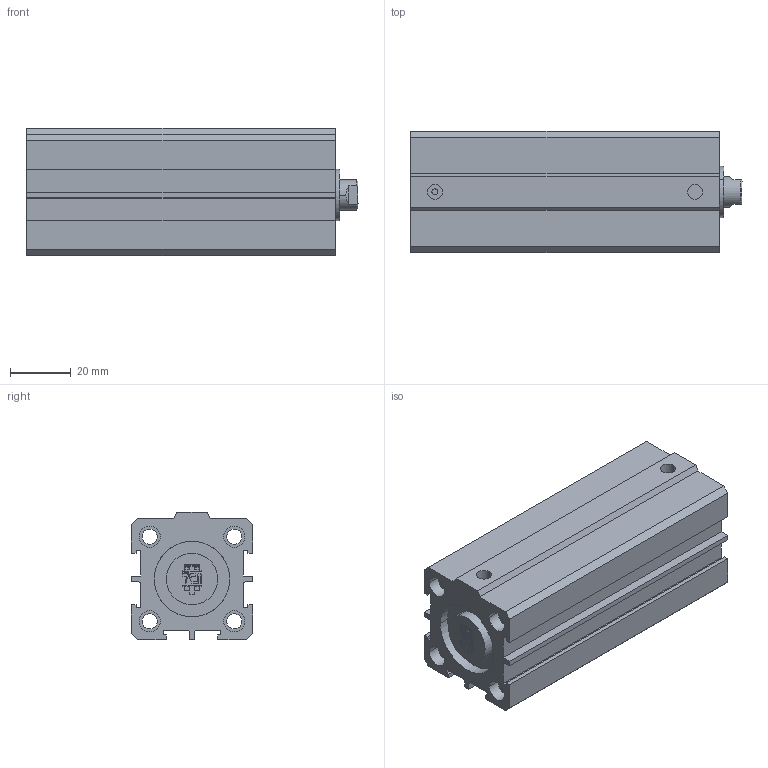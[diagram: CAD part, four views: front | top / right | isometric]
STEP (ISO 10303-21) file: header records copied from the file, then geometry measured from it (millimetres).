
FILE_DESCRIPTION(('CATIA V5 STEP Exchange'),'2;1');
FILE_NAME('D:\PDA\PDA-STP\PDA 25-10\PDA 25-10-70.stp','2016-02-02T10:38:18+00:00',('none'),('none'),'Version 5-6 Release 2012','CATIA V5 STEP AP203','none');
FILE_SCHEMA(('CONFIG_CONTROL_DESIGN'));
Length unit declared in the file: millimetre
Products named in the file (1): PDA 25-10-70-00
Assembly tree (2 placements, depth 2):
  PDA 25-10-70-00
    #58
    #6229
Bounding box: 109.75 x 40 x 42 mm (x, y, z)
Volume: 111723.5 mm3; surface area: 45372.2 mm2
Topology: 3 solids, 4 shells, 238 faces, 606 edges, 406 vertices
Faces by surface type: plane 166, cylinder 68, cone 4
Entity records: 6735 total; most frequent: ORIENTED_EDGE 1212, CARTESIAN_POINT 1202, DIRECTION 914, EDGE_CURVE 606, VECTOR 446, LINE 446, VERTEX_POINT 406, AXIS2_PLACEMENT_3D 310
